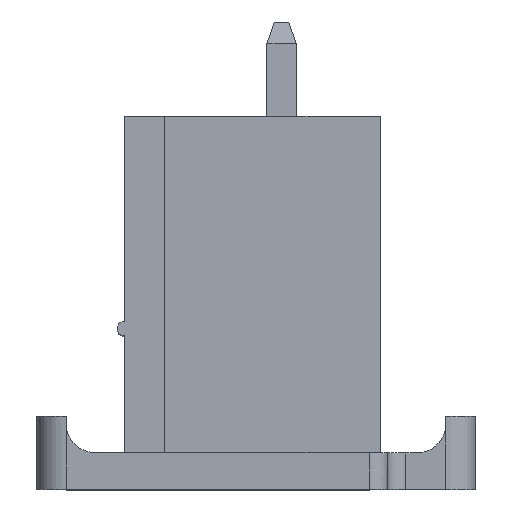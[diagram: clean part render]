
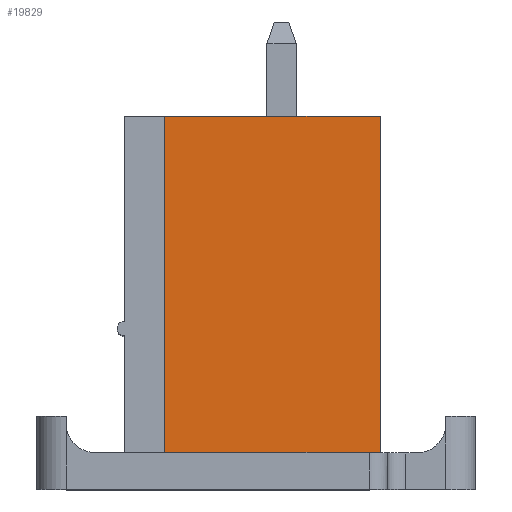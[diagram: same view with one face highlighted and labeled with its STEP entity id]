
A CAD part, top view. The second image highlights one B-rep face of the part: STEP entity #19829.
In plain terms, the highlighted planar face has unit normal (0, 0, 1).
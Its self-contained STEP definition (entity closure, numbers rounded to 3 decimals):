
#7906=DIRECTION('',(0.,1.,0.));
#7907=VECTOR('',#7906,9.2);
#7908=CARTESIAN_POINT('',(7.2,0.,0.));
#7909=LINE('',#7908,#7907);
#7910=DIRECTION('',(1.,0.,0.));
#7911=VECTOR('',#7910,5.9);
#7912=CARTESIAN_POINT('',(1.3,0.,0.));
#7913=LINE('',#7912,#7911);
#7914=DIRECTION('',(0.,-1.,0.));
#7915=VECTOR('',#7914,9.2);
#7916=CARTESIAN_POINT('',(1.3,9.2,0.));
#7917=LINE('',#7916,#7915);
#7918=DIRECTION('',(-1.,0.,0.));
#7919=VECTOR('',#7918,5.9);
#7920=CARTESIAN_POINT('',(7.2,9.2,0.));
#7921=LINE('',#7920,#7919);
#8011=CARTESIAN_POINT('',(1.3,0.,0.));
#8012=VERTEX_POINT('',#8011);
#8013=CARTESIAN_POINT('',(7.2,0.,0.));
#8014=VERTEX_POINT('',#8013);
#8035=CARTESIAN_POINT('',(7.2,9.2,0.));
#8036=VERTEX_POINT('',#8035);
#8367=CARTESIAN_POINT('',(1.3,9.2,0.));
#8368=VERTEX_POINT('',#8367);
#19818=CARTESIAN_POINT('',(7.2,0.,0.));
#19819=DIRECTION('',(0.,0.,1.));
#19820=DIRECTION('',(-1.,0.,0.));
#19821=AXIS2_PLACEMENT_3D('',#19818,#19819,#19820);
#19822=PLANE('',#19821);
#19823=ORIENTED_EDGE('',*,*,#10992,.F.);
#19824=ORIENTED_EDGE('',*,*,#9975,.F.);
#19825=ORIENTED_EDGE('',*,*,#19813,.F.);
#19826=ORIENTED_EDGE('',*,*,#13046,.F.);
#19827=EDGE_LOOP('',(#19823,#19824,#19825,#19826));
#19828=FACE_OUTER_BOUND('',#19827,.F.);
#19829=ADVANCED_FACE('',(#19828),#19822,.T.);
#9975=EDGE_CURVE('',#8012,#8014,#7913,.T.);
#10992=EDGE_CURVE('',#8014,#8036,#7909,.T.);
#13046=EDGE_CURVE('',#8036,#8368,#7921,.T.);
#19813=EDGE_CURVE('',#8368,#8012,#7917,.T.);
